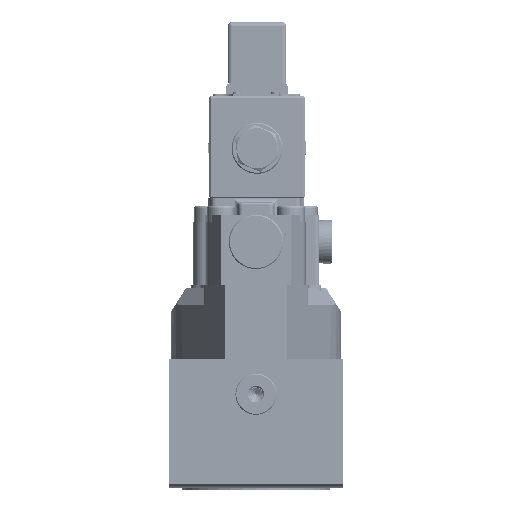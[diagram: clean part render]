
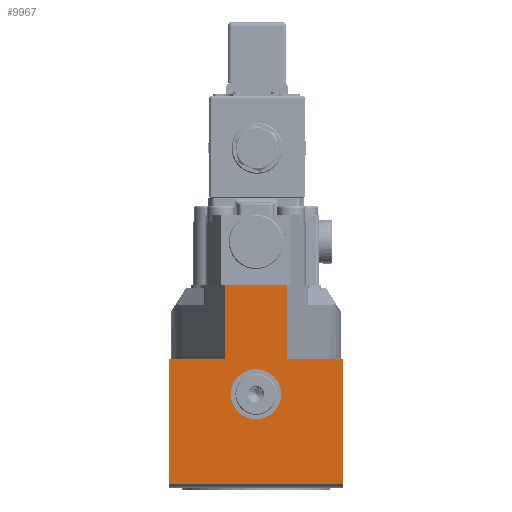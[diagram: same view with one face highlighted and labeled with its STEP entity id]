
A CAD part, left-side view. The second image highlights one B-rep face of the part: STEP entity #9967.
In plain terms, the highlighted planar face has unit normal (-1, 0, 0).
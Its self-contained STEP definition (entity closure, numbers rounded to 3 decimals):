
#1585=CIRCLE('',#32194,11.5);
#3846=PLANE('',#32195);
#6200=LINE('',#118044,#8033);
#6223=LINE('',#118105,#8056);
#6224=LINE('',#118108,#8057);
#6225=LINE('',#118109,#8058);
#6226=LINE('',#118111,#8059);
#6227=LINE('',#118113,#8060);
#6228=LINE('',#118115,#8061);
#6229=LINE('',#118117,#8062);
#8033=VECTOR('',#36745,1.);
#8056=VECTOR('',#36790,1.);
#8057=VECTOR('',#36791,1.);
#8058=VECTOR('',#36792,1.);
#8059=VECTOR('',#36793,1.);
#8060=VECTOR('',#36794,1.);
#8061=VECTOR('',#36795,1.);
#8062=VECTOR('',#36796,1.);
#9967=ADVANCED_FACE('',(#11853,#11854),#3846,.T.);
#11853=FACE_BOUND('',#13649,.T.);
#11854=FACE_BOUND('',#13650,.T.);
#13649=EDGE_LOOP('',(#17730));
#13650=EDGE_LOOP('',(#17731,#17732,#17733,#17734,#17735,#17736,#17737,#17738));
#17730=ORIENTED_EDGE('',*,*,#27596,.F.);
#17731=ORIENTED_EDGE('',*,*,#27597,.F.);
#17732=ORIENTED_EDGE('',*,*,#27598,.T.);
#17733=ORIENTED_EDGE('',*,*,#27567,.F.);
#17734=ORIENTED_EDGE('',*,*,#27599,.T.);
#17735=ORIENTED_EDGE('',*,*,#27600,.F.);
#17736=ORIENTED_EDGE('',*,*,#27601,.F.);
#17737=ORIENTED_EDGE('',*,*,#27602,.T.);
#17738=ORIENTED_EDGE('',*,*,#27603,.F.);
#24452=VERTEX_POINT('',#118045);
#24453=VERTEX_POINT('',#118046);
#24478=VERTEX_POINT('',#118104);
#24479=VERTEX_POINT('',#118106);
#24480=VERTEX_POINT('',#118107);
#24481=VERTEX_POINT('',#118110);
#24482=VERTEX_POINT('',#118112);
#24483=VERTEX_POINT('',#118114);
#24484=VERTEX_POINT('',#118116);
#27567=EDGE_CURVE('',#24452,#24453,#6200,.T.);
#27596=EDGE_CURVE('',#24478,#24478,#1585,.T.);
#27597=EDGE_CURVE('',#24479,#24480,#6223,.T.);
#27598=EDGE_CURVE('',#24479,#24453,#6224,.T.);
#27599=EDGE_CURVE('',#24452,#24481,#6225,.T.);
#27600=EDGE_CURVE('',#24482,#24481,#6226,.T.);
#27601=EDGE_CURVE('',#24483,#24482,#6227,.T.);
#27602=EDGE_CURVE('',#24483,#24484,#6228,.T.);
#27603=EDGE_CURVE('',#24480,#24484,#6229,.T.);
#32194=AXIS2_PLACEMENT_3D('',#118103,#36788,#36789);
#32195=AXIS2_PLACEMENT_3D('',#118118,#36797,#36798);
#36745=DIRECTION('',(0.,1.,0.));
#36788=DIRECTION('',(-1.,0.,0.));
#36789=DIRECTION('',(0.,0.,-1.));
#36790=DIRECTION('',(0.,-1.,0.));
#36791=DIRECTION('',(0.,0.,-1.));
#36792=DIRECTION('',(0.,0.,1.));
#36793=DIRECTION('',(0.,-1.,0.));
#36794=DIRECTION('',(0.,0.,-1.));
#36795=DIRECTION('',(0.,1.,0.));
#36796=DIRECTION('',(0.,0.,1.));
#36797=DIRECTION('',(-1.,0.,0.));
#36798=DIRECTION('',(0.,0.,-1.));
#118044=CARTESIAN_POINT('',(-643.26,57.121,-1.245));
#118045=CARTESIAN_POINT('',(-643.26,-175.932,-1.245));
#118046=CARTESIAN_POINT('',(-643.26,-95.932,-1.245));
#118103=CARTESIAN_POINT('',(-643.26,-135.932,40.));
#118104=CARTESIAN_POINT('',(-643.26,-135.932,28.5));
#118105=CARTESIAN_POINT('',(-643.26,-96.932,56.));
#118106=CARTESIAN_POINT('',(-643.26,-95.932,56.));
#118107=CARTESIAN_POINT('',(-643.26,-121.653,56.));
#118108=CARTESIAN_POINT('',(-643.26,-95.932,47.5));
#118109=CARTESIAN_POINT('',(-643.26,-175.932,47.5));
#118110=CARTESIAN_POINT('',(-643.26,-175.932,56.));
#118111=CARTESIAN_POINT('',(-643.26,-177.332,56.));
#118112=CARTESIAN_POINT('',(-643.26,-150.211,56.));
#118113=CARTESIAN_POINT('',(-643.26,-150.211,56.));
#118114=CARTESIAN_POINT('',(-643.26,-150.211,90.));
#118115=CARTESIAN_POINT('',(-643.26,-177.332,90.));
#118116=CARTESIAN_POINT('',(-643.26,-121.653,90.));
#118117=CARTESIAN_POINT('',(-643.26,-121.653,56.));
#118118=CARTESIAN_POINT('',(-643.26,-135.932,47.5));
